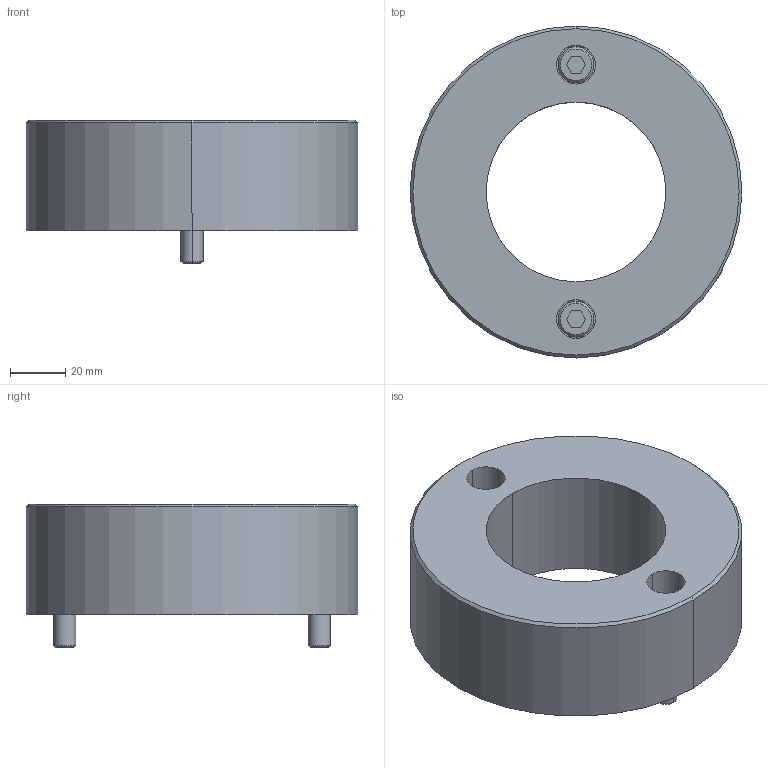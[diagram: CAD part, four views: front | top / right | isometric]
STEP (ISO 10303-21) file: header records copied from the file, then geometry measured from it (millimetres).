
FILE_DESCRIPTION((''),'2;1');
FILE_NAME('','2010-08-30T17:18:45+09:00',('misumi'),(''),'M/STEP i/f 1R2-14','CADmeister v5.1','');
FILE_SCHEMA(('AUTOMOTIVE_DESIGN'));
Length unit declared in the file: millimetre
Products named in the file (1): GEB60-40-N
Bounding box: 120 x 120 x 52 mm (x, y, z)
Volume: 315260 mm3; surface area: 44502.8 mm2
Topology: 3 solids, 3 shells, 54 faces, 116 edges, 74 vertices
Faces by surface type: plane 24, cylinder 20, cone 10
Entity records: 1592 total; most frequent: DIRECTION 276, CARTESIAN_POINT 245, ORIENTED_EDGE 232, EDGE_CURVE 116, AXIS2_PLACEMENT_3D 105, VERTEX_POINT 74, LINE 66, VECTOR 66
